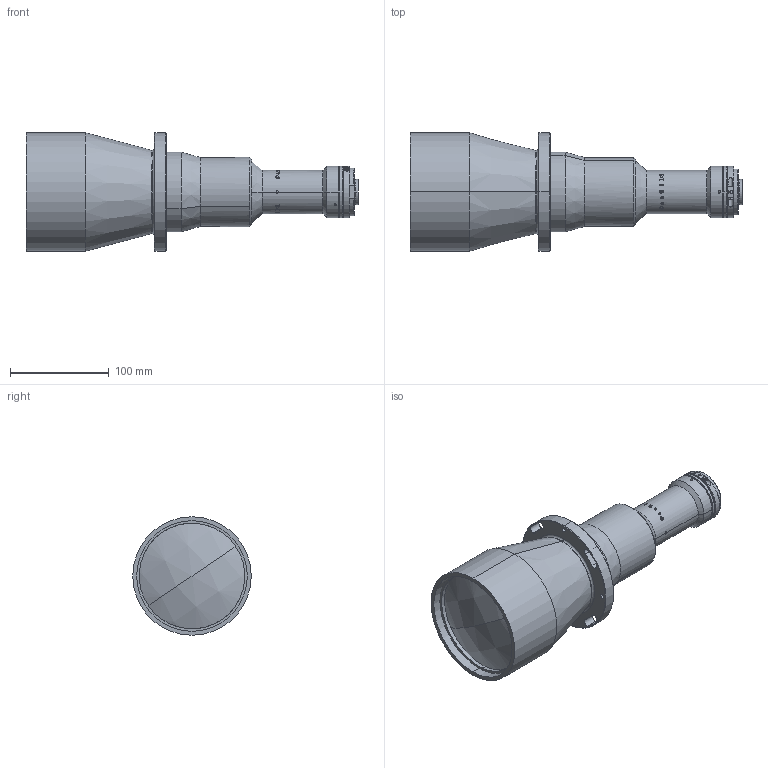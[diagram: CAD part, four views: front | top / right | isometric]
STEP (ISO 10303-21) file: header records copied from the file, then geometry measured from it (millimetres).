
FILE_DESCRIPTION (( 'STEP AP203' ), '1' );
FILE_NAME ('XF-PTL09223-C.STEP', '2020-05-09T02:34:50', ( 'puyufan' ), ( '' ), 'SwSTEP 2.0', 'SolidWorks 2014', '' );
FILE_SCHEMA (( 'CONFIG_CONTROL_DESIGN' ));
Length unit declared in the file: millimetre
Products named in the file (1): XF-PTL09223-C
Bounding box: 336.14 x 120 x 120 mm (x, y, z)
Volume: 1840507.7 mm3; surface area: 144057.2 mm2
Topology: 2 solids, 16 shells, 628 faces, 1640 edges, 1079 vertices
Faces by surface type: plane 252, cylinder 198, bspline 130, torus 26, cone 20, sphere 2
Entity records: 36336 total; most frequent: CARTESIAN_POINT 21680, ORIENTED_EDGE 3276, DIRECTION 2633, EDGE_CURVE 1638, VERTEX_POINT 1079, AXIS2_PLACEMENT_3D 1034, EDGE_LOOP 713, FACE_OUTER_BOUND 628
